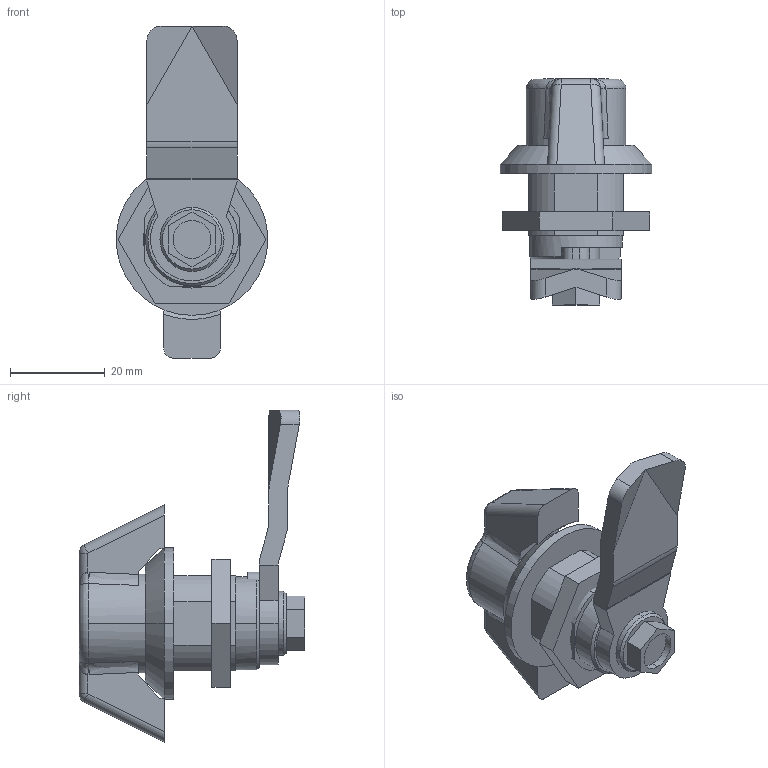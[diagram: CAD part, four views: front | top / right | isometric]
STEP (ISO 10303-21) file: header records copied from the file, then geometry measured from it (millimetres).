
FILE_DESCRIPTION (( 'STEP AP214' ), '1' );
FILE_NAME ('115-SKN-20-A4.step', '2023-07-12T12:42:08', ( '' ), ( '' ), 'SwSTEP 2.0', 'SolidWorks 2022', '' );
FILE_SCHEMA (( 'AUTOMOTIVE_DESIGN' ));
Length unit declared in the file: millimetre
Products named in the file (5): WB115_Gehäuse^WB115_BE_32; 115-SKN-20-A4; WB115_Zunge^WB115_BE_20; WB115_Gegenmutter^WB115_BE; WB115_Betätigungswelle_Hebel^WB115_BE_SKN
Assembly tree (4 placements, depth 2):
  115-SKN-20-A4
    WB115_Gehäuse^WB115_BE_32
    WB115_Betätigungswelle_Hebel^WB115_BE_SKN
    WB115_Zunge^WB115_BE_20
    WB115_Gegenmutter^WB115_BE
Bounding box: 32 x 47.65 x 70 mm (x, y, z)
Volume: 23541.9 mm3; surface area: 12412.2 mm2
Topology: 4 solids, 4 shells, 159 faces, 393 edges, 248 vertices
Faces by surface type: plane 76, cylinder 57, bspline 12, cone 7, sphere 5, torus 2
Entity records: 5778 total; most frequent: CARTESIAN_POINT 1353, DIRECTION 779, ORIENTED_EDGE 776, EDGE_CURVE 388, AXIS2_PLACEMENT_3D 286, VERTEX_POINT 248, VECTOR 207, LINE 207
